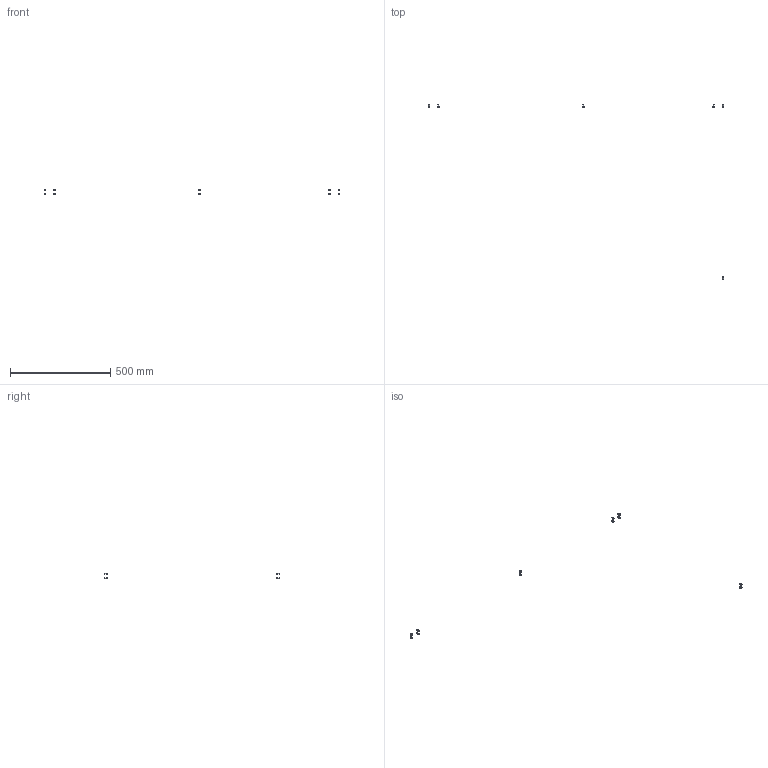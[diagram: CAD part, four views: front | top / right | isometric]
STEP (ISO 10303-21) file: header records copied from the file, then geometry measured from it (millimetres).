
FILE_DESCRIPTION(/* description */ (''),/* implementation_level */ '2;1');
FILE_NAME(/* name */ 'Y-9657~1',/* time_stamp */ '2014-02-14T19:39:32+01:00',/* author */ (''),/* organization */ (''),/* preprocessor_version */ 'ST-DEVELOPER v14',/* originating_system */ '',/* authorisation */ '');
FILE_SCHEMA (('AUTOMOTIVE_DESIGN'));
Length unit declared in the file: millimetre
Products named in the file (2): Document; screw DIN912-like, M5x08
Assembly tree (8 placements, depth 2):
  Document
    screw DIN912-like, M5x08  x8
Bounding box: 1472.49 x 870 x 28.5 mm (x, y, z)
Volume: 4788.6 mm3; surface area: 4738.5 mm2
Topology: 12 solids, 12 shells, 300 faces, 672 edges, 396 vertices
Faces by surface type: plane 180, bspline 120
Entity records: 6885 total; most frequent: CARTESIAN_POINT 3151, B_SPLINE_CURVE_WITH_KNOTS 630, ORIENTED_EDGE 540, PCURVE 540, DEFINITIONAL_REPRESENTATION 540, SURFACE_CURVE 270, EDGE_CURVE 270, VERTEX_POINT 165
